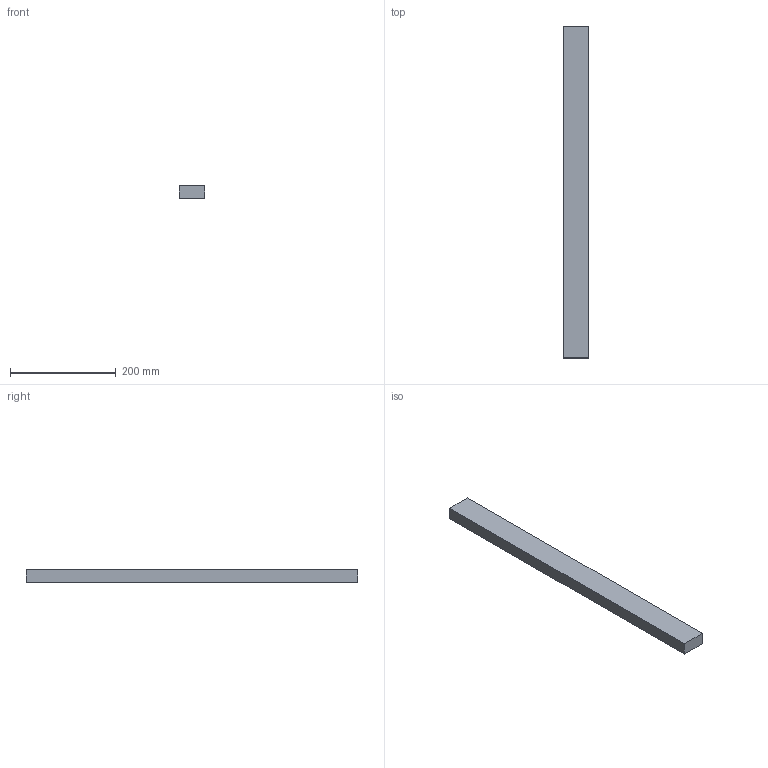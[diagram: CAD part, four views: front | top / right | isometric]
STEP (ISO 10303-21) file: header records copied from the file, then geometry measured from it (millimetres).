
FILE_DESCRIPTION (( 'STEP AP203' ), '1' );
FILE_NAME ('Tasseau_627_Deflecteur.STEP', '2026-06-24T07:29:51', ( '' ), ( '' ), 'SwSTEP 2.0', 'SolidWorks 2024', '' );
FILE_SCHEMA (( 'CONFIG_CONTROL_DESIGN' ));
Length unit declared in the file: millimetre
Products named in the file (1): Tasseau_627_Deflecteur
Bounding box: 48 x 627 x 24 mm (x, y, z)
Volume: 722304 mm3; surface area: 92592 mm2
Topology: 1 solids, 1 shells, 6 faces, 12 edges, 8 vertices
Faces by surface type: plane 6
Entity records: 231 total; most frequent: CARTESIAN_POINT 27, DIRECTION 26, ORIENTED_EDGE 24, VECTOR 12, EDGE_CURVE 12, LINE 12, PERSON_AND_ORGANIZATION 8, VERTEX_POINT 8
